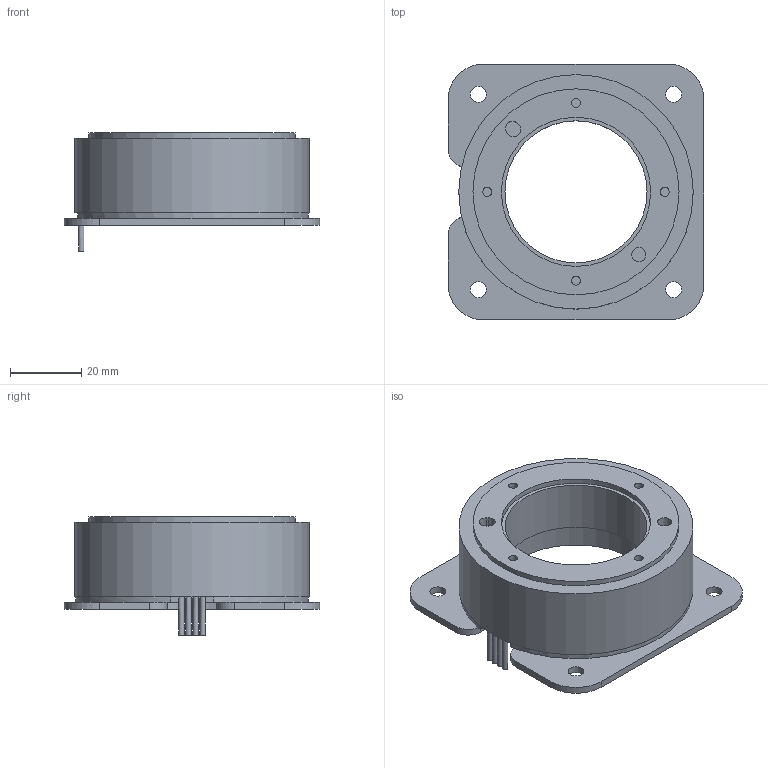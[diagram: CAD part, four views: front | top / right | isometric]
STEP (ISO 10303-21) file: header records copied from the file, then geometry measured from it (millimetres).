
FILE_DESCRIPTION(/* description */ (''),/* implementation_level */ '2;1');
FILE_NAME(/* name */ 'DM6624_12.stp',/* time_stamp */ '2020-03-11T14:33:36+01:00',/* author */ ('DR. FRITZ FAULHABER GmbH & Co. KG'),/* organization */ ('DR. FRITZ FAULHABER GmbH & Co. KG'),/* preprocessor_version */ 'ST-DEVELOPER v16.7',/* originating_system */ 'SIEMENS PLM Software NX 12.0',/* authorisation */ '');
FILE_SCHEMA (('AUTOMOTIVE_DESIGN { 1 0 10303 214 3 1 1 1 }'));
Length unit declared in the file: millimetre
Products named in the file (1): H00002348-A-6624.0H004
Bounding box: 72 x 72 x 33.25 mm (x, y, z)
Volume: 53216.1 mm3; surface area: 17931.4 mm2
Topology: 1 solids, 1 shells, 91 faces, 191 edges, 122 vertices
Faces by surface type: plane 38, cylinder 33, bspline 8, cone 6, torus 6
Full cylindrical faces by diameter (mm): 2.5 x4, 3 x6, 4 x1, 4.5 x4, 40 x1, 42 x1, 44 x1, 58 x2, 66 x1
Entity records: 3224 total; most frequent: CARTESIAN_POINT 1382, DIRECTION 394, ORIENTED_EDGE 298, AXIS2_PLACEMENT_3D 173, EDGE_LOOP 158, EDGE_CURVE 149, VERTEX_POINT 117, FACE_BOUND 112
